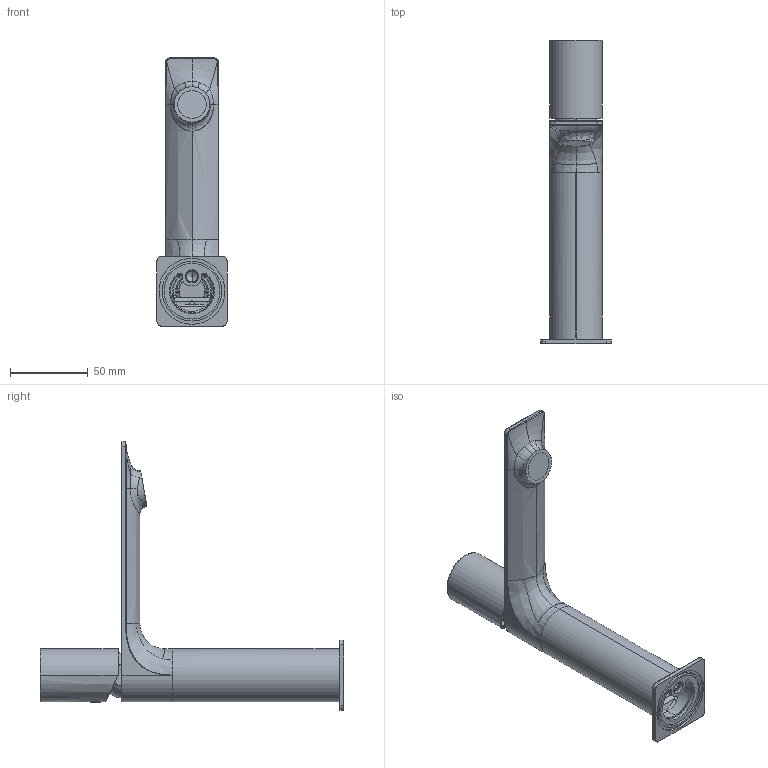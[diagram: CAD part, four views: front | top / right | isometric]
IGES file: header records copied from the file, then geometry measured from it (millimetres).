
Start section:  PTC IGES file: 78050s_sw0001.igs
Global section: file name: 78050s_sw0001.igs; native system: Creo Parametric by PTC Inc.; preprocessor: 2018100; author: volponeff; organization: Unknown; date: 20200521.115514; units: millimetre
Bounding box: 45 x 195 x 172.5 mm (x, y, z)
Surface area: 66064.7 mm2 (no closed solid volume)
Topology: 0 solids, 0 shells, 399 faces, 1902 edges, 1883 vertices
Faces by surface type: revolution 217, bspline 178, extrusion 4
